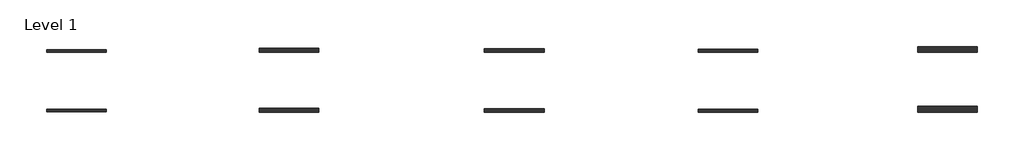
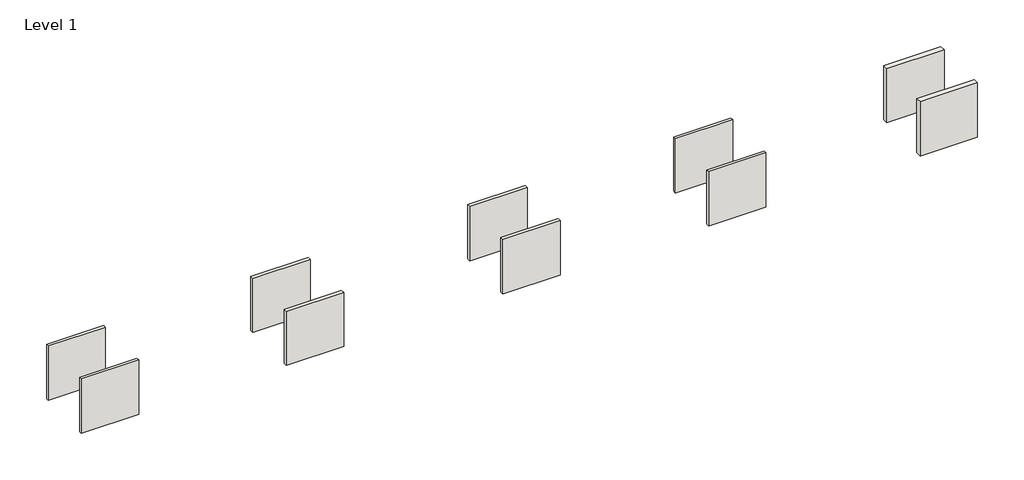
# One storey: 10 walls.
"""IFC4 building model written with IfcOpenShell, lengths in millimetres."""

from ifc_helpers import new_model, si_unit, origin, origin_with_axes, place, context, project, spatial, polyline, outline, extrude, element, save

model = new_model("IFC4")

# Units and contexts
model_context = context("Model", 3, world=origin())
ifc_project = project(units=[si_unit("LENGTHUNIT", "METRE", prefix="MILLI")], contexts=[model_context])

# Site, building, storey
site = spatial("IfcSite", under=ifc_project)
building = spatial("IfcBuilding", under=site)
storey = spatial("IfcBuildingStorey", under=building, Name="Level 1", Elevation=0.0)

# Walls
placement = place(None, origin())
element("IfcWall", 1, ObjectType="YB RY145 600 EH-EH/AA", at=placement, inside=storey, context=model_context, shape_type="SweptSolid", body=[
    extrude(outline(polyline([(-31403.4932306, -13140.9884309), (-35403.4932306, -13140.9884309), (-35403.4932306, -12950.9884248), (-31403.4932306, -12950.9884248), (-31403.4932306, -13140.9884309)])), origin_with_axes(), (0.0, 0.0, 1.0), 4000.0),
])
element("IfcWall", 2, ObjectType="YB RY145 600 WB-WB/AA", at=placement, inside=storey, context=model_context, shape_type="SweptSolid", body=[
    extrude(outline(polyline([(-31403.4932306, -17142.4498633), (-35403.4932306, -17142.4498633), (-35403.4932306, -16952.4498572), (-31403.4932306, -16952.4498572), (-31403.4932306, -17142.4498633)])), origin_with_axes(), (0.0, 0.0, 1.0), 4000.0),
])
element("IfcWall", 3, ObjectType="YB RY145/Z70 600 EH-EH/AA", at=placement, inside=storey, context=model_context, shape_type="SweptSolid", body=[
    extrude(outline(polyline([(-17110.2805434, -13140.9884309), (-21110.2805434, -13140.9884309), (-21110.2805434, -12880.9884226), (-17110.2805434, -12880.9884226), (-17110.2805434, -13140.9884309)])), origin_with_axes(), (0.0, 0.0, 1.0), 4000.0),
])
element("IfcWall", 4, ObjectType="YB RY145/Z70 600 WB-WB/AA", at=placement, inside=storey, context=model_context, shape_type="SweptSolid", body=[
    extrude(outline(polyline([(-17110.2805434, -17160.0834907), (-21110.2805434, -17160.0834907), (-21110.2805434, -16900.0834824), (-17110.2805434, -16900.0834824), (-17110.2805434, -17160.0834907)])), origin_with_axes(), (0.0, 0.0, 1.0), 4000.0),
])
element("IfcWall", 5, ObjectType="YB RY195 600 EH-EH/AA", at=placement, inside=storey, context=model_context, shape_type="SweptSolid", body=[
    extrude(outline(polyline([(-1991.0520054, -13140.9884309), (-5991.0520054, -13140.9884309), (-5991.0520054, -12900.9884232), (-1991.0520054, -12900.9884232), (-1991.0520054, -13140.9884309)])), origin_with_axes(), (0.0, 0.0, 1.0), 4000.0),
])
element("IfcWall", 6, ObjectType="YB RY195 600 WB-WB/AA", at=placement, inside=storey, context=model_context, shape_type="SweptSolid", body=[
    extrude(outline(polyline([(-1991.0520054, -17160.0834907), (-5991.0520054, -17160.0834907), (-5991.0520054, -16920.0834831), (-1991.0520054, -16920.0834831), (-1991.0520054, -17160.0834907)])), origin_with_axes(), (0.0, 0.0, 1.0), 4000.0),
])
element("IfcWall", 7, ObjectType="YB RY195/Z70 600 EH-EH/AA", at=placement, inside=storey, context=model_context, shape_type="SweptSolid", body=[
    extrude(outline(polyline([(12359.3267855, -13140.9884309), (8359.3267855, -13140.9884309), (8359.3267855, -12930.9884242), (12359.3267855, -12930.9884242), (12359.3267855, -13140.9884309)])), origin_with_axes(), (0.0, 0.0, 1.0), 4000.0),
])
element("IfcWall", 8, ObjectType="YB RY195/Z70 600 WB-WB/AA", at=placement, inside=storey, context=model_context, shape_type="SweptSolid", body=[
    extrude(outline(polyline([(12359.3267855, -17160.0834907), (8359.3267855, -17160.0834907), (8359.3267855, -16950.083484), (12359.3267855, -16950.083484), (12359.3267855, -17160.0834907)])), origin_with_axes(), (0.0, 0.0, 1.0), 4000.0),
])
element("IfcWall", 9, ObjectType="YB RY250/Z95 600 EH-EH/AA", at=placement, inside=storey, context=model_context, shape_type="SweptSolid", body=[
    extrude(outline(polyline([(27115.5003494, -13140.9884309), (23115.5003494, -13140.9884309), (23115.5003494, -12750.9884184), (27115.5003494, -12750.9884184), (27115.5003494, -13140.9884309)])), origin_with_axes(), (0.0, 0.0, 1.0), 4000.0),
])
element("IfcWall", 10, ObjectType="YB RY250/Z95 600 WB-WB/AA", at=placement, inside=storey, context=model_context, shape_type="SweptSolid", body=[
    extrude(outline(polyline([(27115.5003494, -17160.0834907), (23115.5003494, -17160.0834907), (23115.5003494, -16770.0834783), (27115.5003494, -16770.0834783), (27115.5003494, -17160.0834907)])), origin_with_axes(), (0.0, 0.0, 1.0), 4000.0),
])

save(model, "model.ifc")
